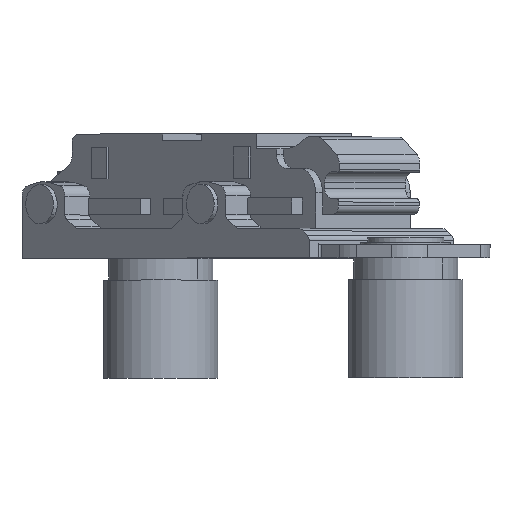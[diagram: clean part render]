
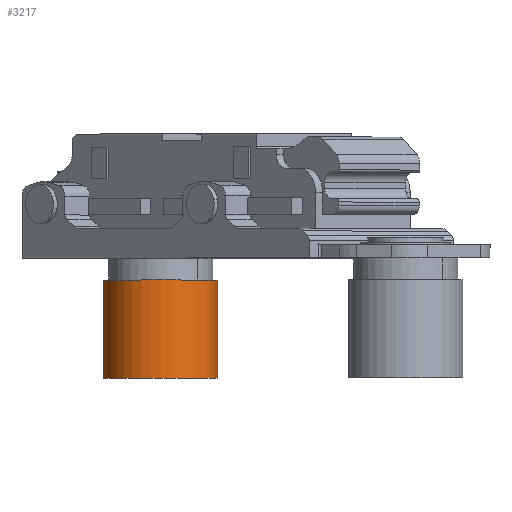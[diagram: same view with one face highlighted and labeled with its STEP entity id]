
A CAD part, top view. The second image highlights one B-rep face of the part: STEP entity #3217.
In plain terms, the highlighted cylindrical face has radius 5.25 mm (diameter 10.5 mm), a partial arc.
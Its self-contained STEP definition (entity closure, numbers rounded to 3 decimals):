
#289 = ORIENTED_EDGE ( 'NONE', *, *, #6785, .F. ) ;
#733 = ORIENTED_EDGE ( 'NONE', *, *, #1654, .F. ) ;
#755 = EDGE_CURVE ( 'NONE', #4711, #2601, #6431, .T. ) ;
#1173 = LINE ( 'NONE', #1246, #6902 ) ;
#1246 = CARTESIAN_POINT ( 'NONE',  ( -0.22, 8.049, -5.561 ) ) ;
#1255 = DIRECTION ( 'NONE',  ( 0., 1., 0. ) ) ;
#1410 = ORIENTED_EDGE ( 'NONE', *, *, #755, .T. ) ;
#1537 = FACE_OUTER_BOUND ( 'NONE', #2550, .T. ) ;
#1654 = EDGE_CURVE ( 'NONE', #4711, #2111, #6480, .T. ) ;
#1811 = DIRECTION ( 'NONE',  ( 0.702, 0., 0.712 ) ) ;
#1939 = CARTESIAN_POINT ( 'NONE',  ( -0.22, -15.8, -5.561 ) ) ;
#2046 = DIRECTION ( 'NONE',  ( 0., -1., 0. ) ) ;
#2084 = AXIS2_PLACEMENT_3D ( 'NONE', #2748, #6091, #4902 ) ;
#2111 = VERTEX_POINT ( 'NONE', #6578 ) ;
#2550 = EDGE_LOOP ( 'NONE', ( #733, #1410, #3862, #289 ) ) ;
#2578 = VECTOR ( 'NONE', #3006, 1000. ) ;
#2601 = VERTEX_POINT ( 'NONE', #3215 ) ;
#2748 = CARTESIAN_POINT ( 'NONE',  ( -5.47, 8.049, -5.561 ) ) ;
#3006 = DIRECTION ( 'NONE',  ( 0., -1., 0. ) ) ;
#3164 = CIRCLE ( 'NONE', #5653, 5.25 ) ;
#3215 = CARTESIAN_POINT ( 'NONE',  ( -10.72, -15.8, -5.561 ) ) ;
#3217 = ADVANCED_FACE ( 'NONE', ( #1537 ), #3751, .T. ) ;
#3751 = CYLINDRICAL_SURFACE ( 'NONE', #2084, 5.25 ) ;
#3862 = ORIENTED_EDGE ( 'NONE', *, *, #4838, .F. ) ;
#3991 = CARTESIAN_POINT ( 'NONE',  ( -5.47, -6.8, -5.561 ) ) ;
#4711 = VERTEX_POINT ( 'NONE', #5576 ) ;
#4838 = EDGE_CURVE ( 'NONE', #4847, #2601, #3164, .T. ) ;
#4847 = VERTEX_POINT ( 'NONE', #1939 ) ;
#4862 = CARTESIAN_POINT ( 'NONE',  ( -5.47, -15.8, -5.561 ) ) ;
#4902 = DIRECTION ( 'NONE',  ( 1., 0., 0. ) ) ;
#5308 = CARTESIAN_POINT ( 'NONE',  ( -10.72, 8.049, -5.561 ) ) ;
#5576 = CARTESIAN_POINT ( 'NONE',  ( -10.72, -6.8, -5.561 ) ) ;
#5653 = AXIS2_PLACEMENT_3D ( 'NONE', #4862, #2046, #7058 ) ;
#6091 = DIRECTION ( 'NONE',  ( 0., -1., 0. ) ) ;
#6116 = AXIS2_PLACEMENT_3D ( 'NONE', #3991, #1255, #1811 ) ;
#6291 = DIRECTION ( 'NONE',  ( 0., -1., 0. ) ) ;
#6431 = LINE ( 'NONE', #5308, #2578 ) ;
#6480 = CIRCLE ( 'NONE', #6116, 5.25 ) ;
#6578 = CARTESIAN_POINT ( 'NONE',  ( -0.22, -6.8, -5.561 ) ) ;
#6785 = EDGE_CURVE ( 'NONE', #2111, #4847, #1173, .T. ) ;
#6902 = VECTOR ( 'NONE', #6291, 1000. ) ;
#7058 = DIRECTION ( 'NONE',  ( 1., 0., 0. ) ) ;
